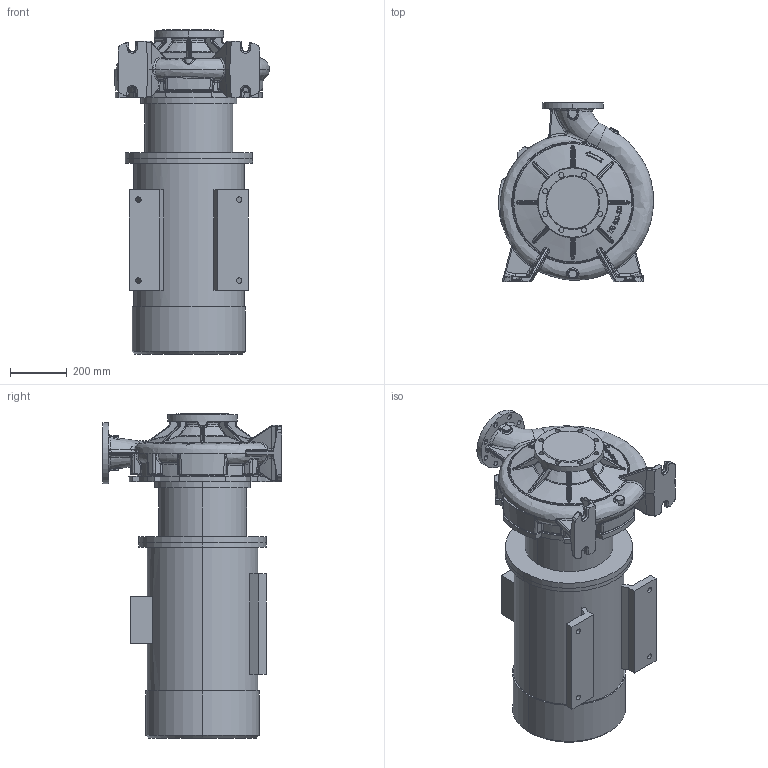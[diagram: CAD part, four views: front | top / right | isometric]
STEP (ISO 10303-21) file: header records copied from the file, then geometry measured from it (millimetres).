
FILE_DESCRIPTION (( 'STEP AP203' ), '1' );
FILE_NAME ('KRM125-100-400-4-37.STEP', '2026-08-13T08:07:27', ( '' ), ( '' ), 'SwSTEP 2.0', 'SolidWorks 2016', '' );
FILE_SCHEMA (( 'CONFIG_CONTROL_DESIGN' ));
Length unit declared in the file: millimetre
Products named in the file (1): KRM125-100-400-4-37
Bounding box: 547.73 x 635 x 1145.8 mm (x, y, z)
Volume: 145669498.1 mm3; surface area: 3634125.6 mm2
Topology: 12 solids, 12 shells, 1379 faces, 3295 edges, 1953 vertices
Faces by surface type: bspline 580, plane 278, cylinder 268, torus 106, cone 92, sphere 55
Entity records: 91960 total; most frequent: CARTESIAN_POINT 64671, ORIENTED_EDGE 6524, DIRECTION 4586, EDGE_CURVE 3262, AXIS2_PLACEMENT_3D 1956, VERTEX_POINT 1953, EDGE_LOOP 1449, ADVANCED_FACE 1379
